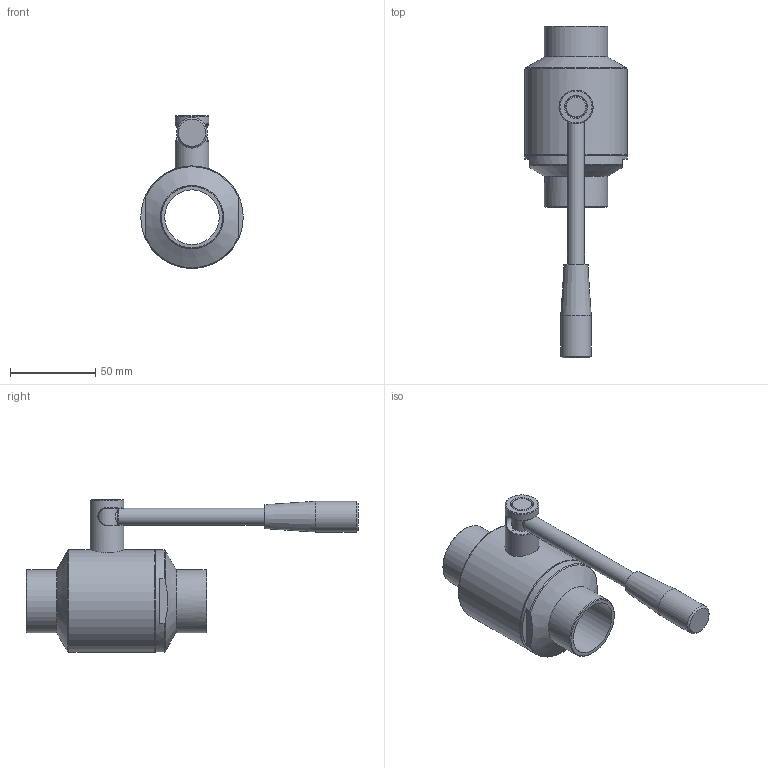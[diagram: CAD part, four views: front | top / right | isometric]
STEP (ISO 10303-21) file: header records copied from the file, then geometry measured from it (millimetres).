
FILE_DESCRIPTION(/* description */ ('Unknown'),/* implementation_level */ '2;1');
FILE_NAME(/* name */ '81CSP-032',/* time_stamp */ '2020-03-30T11:12:23+02:00',/* author */ ('Unknown'),/* organization */ ('Unknown'),/* preprocessor_version */ 'ST-DEVELOPER v16.7',/* originating_system */ 'DEX',/* authorisation */ $);
FILE_SCHEMA (('AUTOMOTIVE_DESIGN {1 0 10303 214 3 1 1}'));
Length unit declared in the file: millimetre
Products named in the file (1): 81CSP-032
Bounding box: 60 x 194.5 x 89.5 mm (x, y, z)
Volume: 148230.7 mm3; surface area: 58531.2 mm2
Topology: 2 solids, 6 shells, 126 faces, 277 edges, 175 vertices
Faces by surface type: plane 41, cylinder 36, cone 34, torus 8, bspline 4, sphere 3
Full cylindrical faces by diameter (mm): 6.647 x1, 9 x2, 10 x2, 12.4 x3, 12.6 x3, 18 x1, 19.75 x1, 20 x1, 32 x2, 33 x3, 37 x2, 42 x2, 42.3 x2, 52.5 x1, 53.5 x1, 53.776 x2, 60 x2
Entity records: 4001 total; most frequent: CARTESIAN_POINT 863, DIRECTION 512, ORIENTED_EDGE 360, AXIS2_PLACEMENT_3D 243, FACE_BOUND 224, EDGE_LOOP 222, EDGE_CURVE 180, VERTEX_POINT 150
